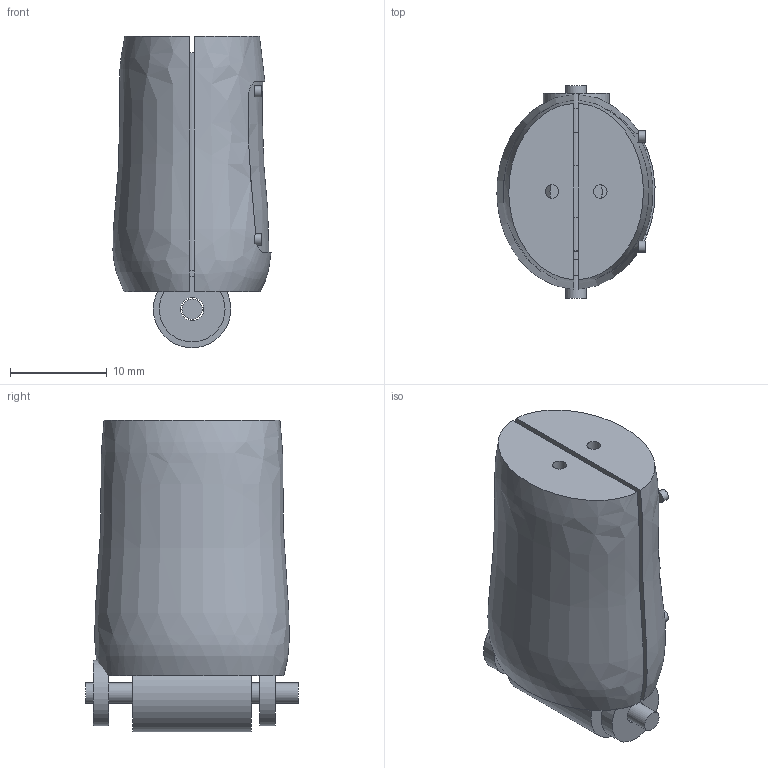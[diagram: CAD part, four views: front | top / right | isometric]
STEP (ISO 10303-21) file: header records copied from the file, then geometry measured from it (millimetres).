
FILE_DESCRIPTION(('FreeCAD Model'),'2;1');
FILE_NAME('Open CASCADE Shape Model','2026-10-05T09:23:00',('Author'),( ''),'Open CASCADE STEP processor 7.8','FreeCAD','Unknown');
FILE_SCHEMA(('AUTOMOTIVE_DESIGN { 1 0 10303 214 1 1 1 1 }'));
Length unit declared in the file: millimetre
Products named in the file (13): Export_thumb_metacarpal; thumb_metacarpalDorsalShell; thumb_metacarpalFlexorShell; thumb_metacarpalInsetPad; thumb_metacarpalCore; thumb_metacarpalHingeBarrel; thumb_metacarpalCheek-1; thumb_metacarpalCheek1; thumb_metacarpalPin; thumb_metacarpalScrew_-1_0.24; thumb_metacarpalScrew_-1_0.75; thumb_metacarpalScrew_1_0.24; thumb_metacarpalScrew_1_0.75
Assembly tree (12 placements, depth 2):
  Export_thumb_metacarpal
    thumb_metacarpalDorsalShell
    thumb_metacarpalFlexorShell
    thumb_metacarpalInsetPad
    thumb_metacarpalCore
    thumb_metacarpalHingeBarrel
    thumb_metacarpalCheek-1
    thumb_metacarpalCheek1
    thumb_metacarpalPin
    thumb_metacarpalScrew_-1_0.24
    thumb_metacarpalScrew_-1_0.75
    thumb_metacarpalScrew_1_0.24
    thumb_metacarpalScrew_1_0.75
Bounding box: 16.34 x 22 x 32.2 mm (x, y, z)
Volume: 7078.3 mm3; surface area: 4957 mm2
Topology: 12 solids, 12 shells, 83 faces, 150 edges, 90 vertices
Faces by surface type: plane 38, cylinder 34, sphere 8, bspline 3
Full cylindrical faces by diameter (mm): 0.464 x4, 1.16 x4, 1.4 x2, 2.1 x1, 2.4 x3, 5.4 x1, 6.8 x2, 8 x1
Entity records: 3146 total; most frequent: CARTESIAN_POINT 1358, DIRECTION 356, ORIENTED_EDGE 288, AXIS2_PLACEMENT_3D 153, EDGE_CURVE 144, FACE_BOUND 98, EDGE_LOOP 98, VERTEX_POINT 90
